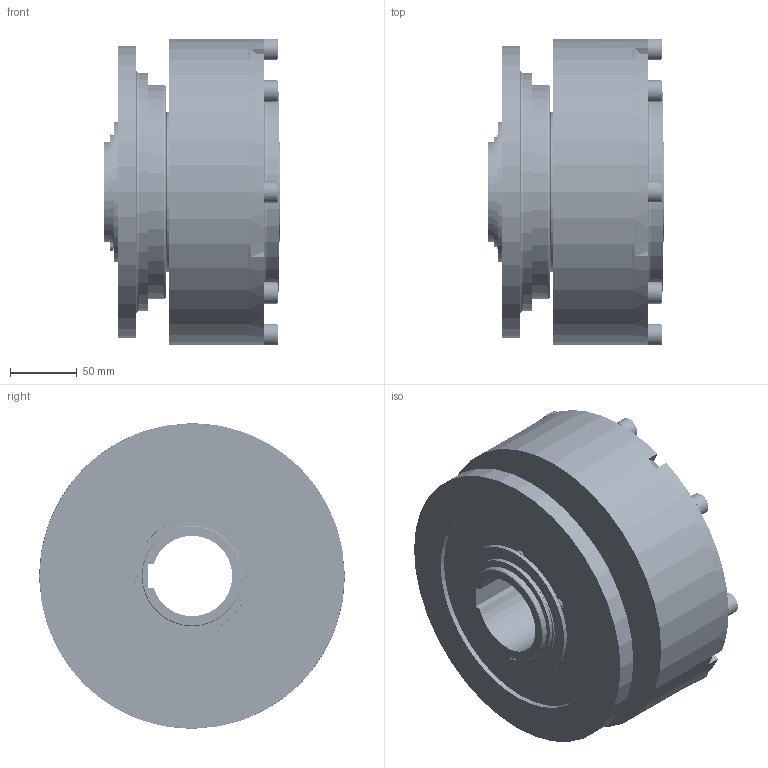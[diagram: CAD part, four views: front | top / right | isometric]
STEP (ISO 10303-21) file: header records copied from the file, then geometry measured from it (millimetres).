
FILE_DESCRIPTION(/* description */ (''),/* implementation_level */ '2;1');
FILE_NAME(/* name */ 'X:\INVENTOR\DISEGNI\03_Friz_Oleod_Pneum_Cil_Stat\03_53 MP-N\03_53_06_01 MP-N06\03_53_06_01 MP-N06@STEP.stp',/* time_stamp */ '2023-02-06T11:25:53+01:00',/* author */ ('alessio'),/* organization */ (''),/* preprocessor_version */ 'ST-DEVELOPER v18.1',/* originating_system */ 'Autodesk Inventor 2021',/* authorisation */ '');
FILE_SCHEMA (('AUTOMOTIVE_DESIGN { 1 0 10303 214 3 1 1 }'));
Products named in the file (1): 03_53_06_01 MP-N06
Bounding box: 132 x 229 x 229 mm (x, y, z)
Volume: 3233980.1 mm3; surface area: 629084 mm2
Topology: 1 solids, 24 shells, 1581 faces, 4355 edges, 2856 vertices
Faces by surface type: cylinder 477, bspline 468, plane 329, torus 247, cone 38, sphere 22
Full cylindrical faces by diameter (mm): 3 x4, 4 x2, 7.5 x6, 8 x1, 8.376 x8, 9.5 x30, 10 x8, 10.5 x8, 11.445 x1, 16 x8, 72 x2, 75 x5, 79 x1, 85 x1, 88 x1, 91 x1, 92.6 x2, 104 x1, 104.8 x1, 105 x2, 112.4 x2, 118 x1, 120 x4, 122.6 x2, 130 x3, 132 x2, 134 x1, 142 x1, 142.4 x2, 150 x1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
Entity records: 114170 total; most frequent: CARTESIAN_POINT 74469, ORIENTED_EDGE 8588, DIRECTION 7638, EDGE_CURVE 4294, AXIS2_PLACEMENT_3D 3424, VERTEX_POINT 2856, CIRCLE 2306, EDGE_LOOP 1774
